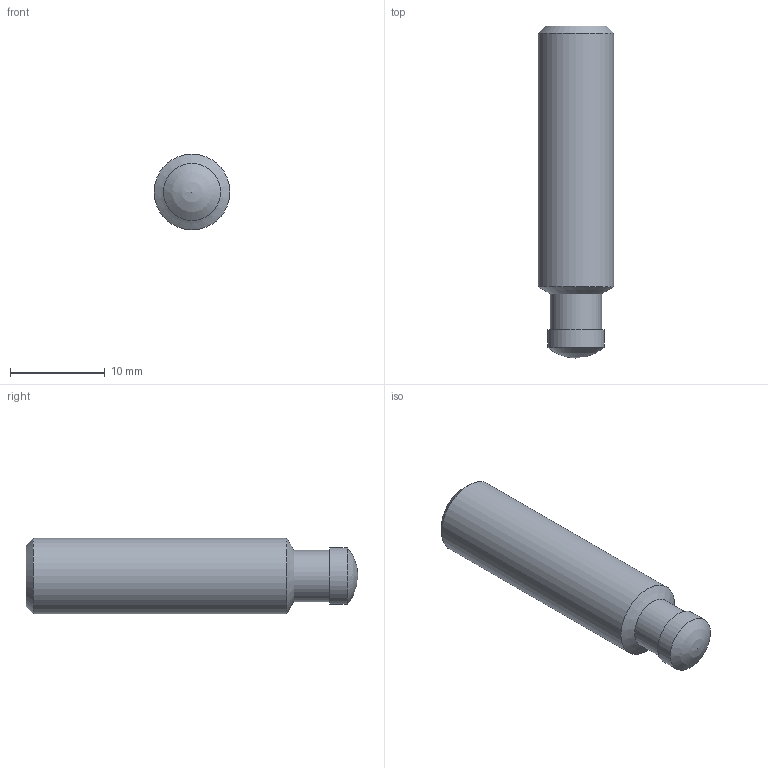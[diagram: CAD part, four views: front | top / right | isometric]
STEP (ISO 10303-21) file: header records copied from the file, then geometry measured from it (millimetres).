
FILE_DESCRIPTION( ( 'STEP AP203' ), '1' );
FILE_NAME( 'C:/Temp/Ganter_Step_05_03_2020/data/3_2/din6332/din6332/Grub screw DIN 6332-M8-35-SK.stp', '2020-03-13T05:16:19', ( 'License CC BY-ND 4.0' ), ( 'CADENAS' ), ' ', 'PARTsolutions', ' ' );
FILE_SCHEMA( ( 'CONFIG_CONTROL_DESIGN' ) );
Length unit declared in the file: millimetre
Products named in the file (1): _Grub screw DIN 6332-M8-35-SK
Bounding box: 8 x 35 x 8 mm (x, y, z)
Volume: 1522.8 mm3; surface area: 931.9 mm2
Topology: 1 solids, 1 shells, 15 faces, 33 edges, 21 vertices
Faces by surface type: plane 9, cylinder 3, cone 2, sphere 1
Full cylindrical faces by diameter (mm): 5.4 x1, 6 x1, 8 x1
Entity records: 410 total; most frequent: DIRECTION 64, CARTESIAN_POINT 61, ORIENTED_EDGE 50, EDGE_CURVE 25, AXIS2_PLACEMENT_3D 23, EDGE_LOOP 22, VERTEX_POINT 20, FACE_OUTER_BOUND 18
